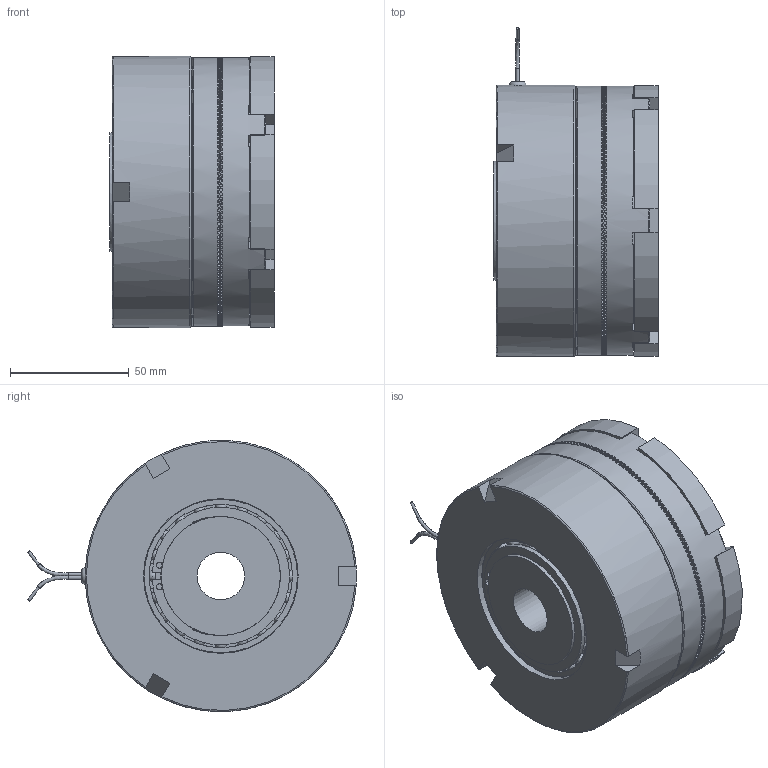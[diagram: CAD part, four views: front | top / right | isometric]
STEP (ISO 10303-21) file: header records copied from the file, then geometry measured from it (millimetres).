
FILE_DESCRIPTION(/* description */ ('','CAx-IF Rec.Pracs.---Representation and Presentation of Product Manufacturing Information (PMI)---3.8---2014-02-18'),/* implementation_level */ '2;1');
FILE_NAME(/* name */ 'T:\INVENTOR\DISEGNI\07_Innesti_Elettmag_a_Dentini\07_05 ESB_Z\07_05_114_01 ESB114_Z\07_05_114_01 ESB114_Z - 2015@STEP.stp',/* time_stamp */ '2020-06-09T14:24:15+02:00',/* author */ ('w.sartori'),/* organization */ (''),/* preprocessor_version */ 'ST-DEVELOPER v16.13',/* originating_system */ 'Autodesk Inventor 2018',/* authorisation */ '');
FILE_SCHEMA (('AP242_MANAGED_MODEL_BASED_3D_ENGINEERING_MIM_LF { 1 0 10303 442 1 1 4 }'));
Products named in the file (1): 07_05_114_01 ESB114_Z - 2015
Bounding box: 69 x 138.22 x 114 mm (x, y, z)
Volume: 578284.2 mm3; surface area: 119718 mm2
Topology: 3 solids, 9 shells, 2072 faces, 6360 edges, 4160 vertices
Faces by surface type: plane 1710, cylinder 163, torus 100, bspline 41, sphere 40, cone 18
Full cylindrical faces by diameter (mm): 1.154 x2, 1.5 x2, 2.5 x2, 3 x5, 3.242 x6, 5.3 x3, 5.75 x3, 6 x39, 8 x3, 9.5 x3, 20 x1, 47 x1, 50 x7, 53 x1, 54 x1, 54.5 x1, 54.8 x4, 60.2 x4, 64.5 x1, 65 x4, 76.5 x1, 78 x1, 90 x1, 98 x1, 101 x1, 102.5 x1, 103 x1, 104.5 x1, 105 x1, 113 x2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
Entity records: 76454 total; most frequent: CARTESIAN_POINT 15082, DIRECTION 14102, ORIENTED_EDGE 12100, AXIS2_PLACEMENT_3D 6078, EDGE_CURVE 6044, VERTEX_POINT 4011, ELLIPSE 2358, EDGE_LOOP 2327
